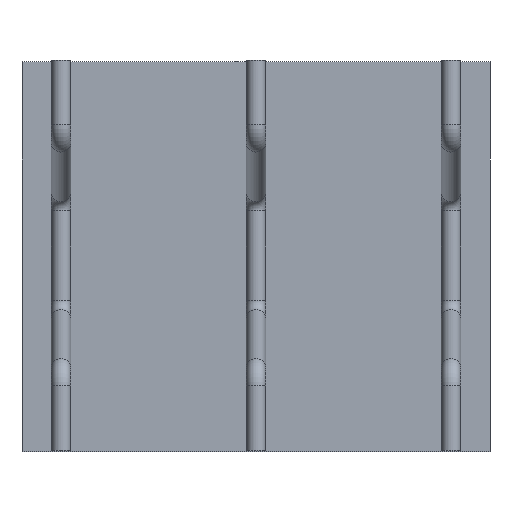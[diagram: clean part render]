
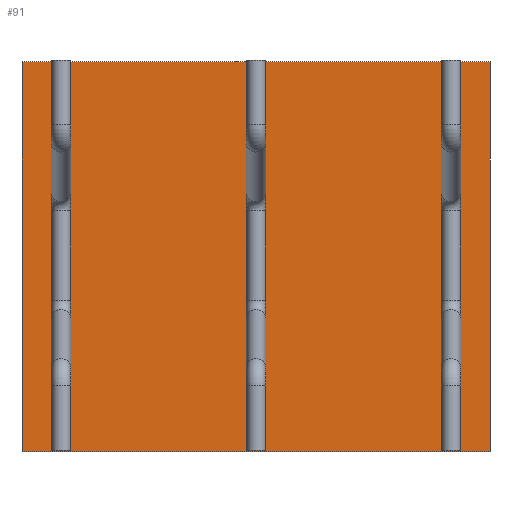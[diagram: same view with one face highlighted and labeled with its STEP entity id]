
A CAD part, top view. The second image highlights one B-rep face of the part: STEP entity #91.
In plain terms, the highlighted planar face has unit normal (0, 0, 1).
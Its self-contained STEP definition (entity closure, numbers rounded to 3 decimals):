
#52=CARTESIAN_POINT('Axis2P3D Location',(0.,0.,0.)) ;
#57=CARTESIAN_POINT('Line Origine',(0.,500.,0.)) ;
#61=CARTESIAN_POINT('Vertex',(600.,500.,0.)) ;
#63=CARTESIAN_POINT('Vertex',(-600.,500.,0.)) ;
#66=CARTESIAN_POINT('Line Origine',(-600.,0.,0.)) ;
#70=CARTESIAN_POINT('Vertex',(-600.,-500.,0.)) ;
#73=CARTESIAN_POINT('Line Origine',(0.,-500.,0.)) ;
#77=CARTESIAN_POINT('Vertex',(600.,-500.,0.)) ;
#80=CARTESIAN_POINT('Line Origine',(600.,0.,0.)) ;
#53=DIRECTION('Axis2P3D Direction',(0.,0.,1.)) ;
#54=DIRECTION('Axis2P3D XDirection',(1.,0.,0.)) ;
#58=DIRECTION('Vector Direction',(1.,0.,0.)) ;
#67=DIRECTION('Vector Direction',(0.,1.,0.)) ;
#74=DIRECTION('Vector Direction',(-1.,0.,0.)) ;
#81=DIRECTION('Vector Direction',(0.,-1.,0.)) ;
#55=AXIS2_PLACEMENT_3D('Plane Axis2P3D',#52,#53,#54) ;
#86=ORIENTED_EDGE('',*,*,#65,.T.) ;
#87=ORIENTED_EDGE('',*,*,#72,.T.) ;
#88=ORIENTED_EDGE('',*,*,#79,.T.) ;
#89=ORIENTED_EDGE('',*,*,#84,.T.) ;
#59=VECTOR('Line Direction',#58,1.) ;
#68=VECTOR('Line Direction',#67,1.) ;
#75=VECTOR('Line Direction',#74,1.) ;
#82=VECTOR('Line Direction',#81,1.) ;
#91=ADVANCED_FACE('Fill.1',(#90),#56,.T.) ;
#65=EDGE_CURVE('',#62,#64,#60,.F.) ;
#72=EDGE_CURVE('',#64,#71,#69,.F.) ;
#79=EDGE_CURVE('',#71,#78,#76,.F.) ;
#84=EDGE_CURVE('',#78,#62,#83,.F.) ;
#85=EDGE_LOOP('',(#86,#87,#88,#89)) ;
#90=FACE_OUTER_BOUND('',#85,.T.) ;
#60=LINE('Line',#57,#59) ;
#69=LINE('Line',#66,#68) ;
#76=LINE('Line',#73,#75) ;
#83=LINE('Line',#80,#82) ;
#56=PLANE('',#55) ;
#62=VERTEX_POINT('',#61) ;
#64=VERTEX_POINT('',#63) ;
#71=VERTEX_POINT('',#70) ;
#78=VERTEX_POINT('',#77) ;
